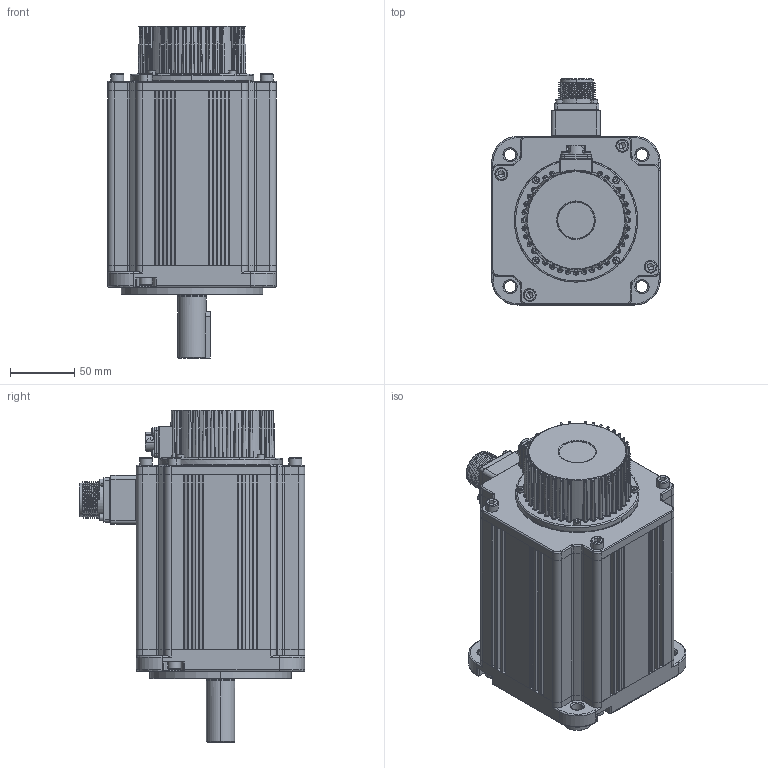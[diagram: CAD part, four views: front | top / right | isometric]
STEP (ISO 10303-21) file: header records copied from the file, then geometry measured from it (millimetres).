
FILE_DESCRIPTION (( 'STEP AP203' ), '1' );
FILE_NAME ('V7E-H13A-2R315-D1C.STEP', '2024-05-08T07:55:48', ( 'IT' ), ( '' ), 'SwSTEP 2.0', 'SolidWorks 2014', '' );
FILE_SCHEMA (( 'CONFIG_CONTROL_DESIGN' ));
Length unit declared in the file: millimetre
Products named in the file (24): 130綴傷裔200917; 綴傷裔200903-4晚源倛; 囀鞠褒 M3X10; 粣200907-100-湍瑩羞; 蚐猾 D00B999YF7-TC 30-42-7; pan head cross recess screw_din_ISO 7045 - M3 x 8 - Z --- 8C; 雄薯瑤脣釱200909; SC_6204 Outer ring; V7E-H13A-2R315-D1C; 囀鞠褒 M3X30; O型圈-122.35; SC_6204 Ball; SC_6204 Inner ring; SC6204; 130陔ヶ傷裔200902; 囀鞠褒 M6X20; SCGB／T276-94深沟球轴承6206-2Z; SC瑤諾脣芛 CMS3102A18-10P-Z; SC晤鎢ん欶200908_9郋; 8x7x36瑩; V7-130#定子组件（不带刹车）-100; 儂褲200901-100; 瑤諾脣芛 SC-CMV1-R10P-1; 雄薯盄釱砎蝶菜200910
Assembly tree (47 placements, depth 3):
  V7E-H13A-2R315-D1C
    V7-130#定子组件（不带刹车）-100
      儂褲200901-100
      O型圈-122.35
      雄薯盄釱砎蝶菜200910
      雄薯瑤脣釱200909
      SC瑤諾脣芛 CMS3102A18-10P-Z
      囀鞠褒 M6X20  x4
      囀鞠褒 M3X30  x4
      130陔ヶ傷裔200902
    囀鞠褒 M6X20  x4
    SC晤鎢ん欶200908_9郋
    囀鞠褒 M3X10  x4
    蚐猾 D00B999YF7-TC 30-42-7
    130綴傷裔200917
      綴傷裔200903-4晚源倛
    瑤諾脣芛 SC-CMV1-R10P-1
    SCGB／T276-94深沟球轴承6206-2Z
    SC6204
      SC_6204 Outer ring
      SC_6204 Inner ring
      SC_6204 Ball  x9
    粣200907-100-湍瑩羞
    pan head cross recess screw_din_ISO 7045 - M3 x 8 - Z --- 8C  x4
    8x7x36瑩
Bounding box: 131 x 175.4 x 258 mm (x, y, z)
Volume: 1051515.1 mm3; surface area: 386004.4 mm2
Topology: 45 solids, 45 shells, 3304 faces, 8073 edges, 4689 vertices
Faces by surface type: cylinder 1104, bspline 1032, plane 782, cone 282, torus 78, sphere 26
Entity records: 126343 total; most frequent: CARTESIAN_POINT 63318, ORIENTED_EDGE 13502, DIRECTION 11384, EDGE_CURVE 6751, AXIS2_PLACEMENT_3D 4640, VERTEX_POINT 4031, EDGE_LOOP 3068, ADVANCED_FACE 2834
